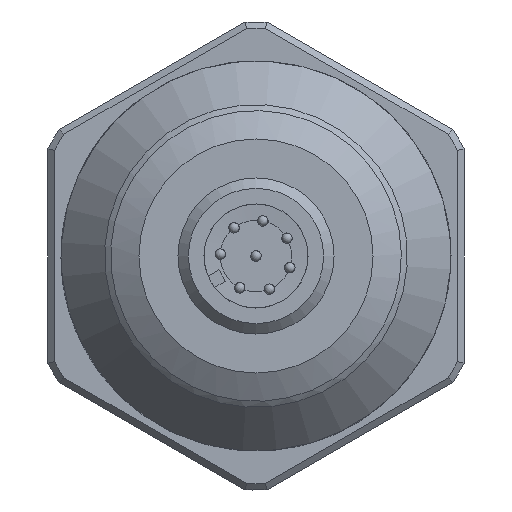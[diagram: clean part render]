
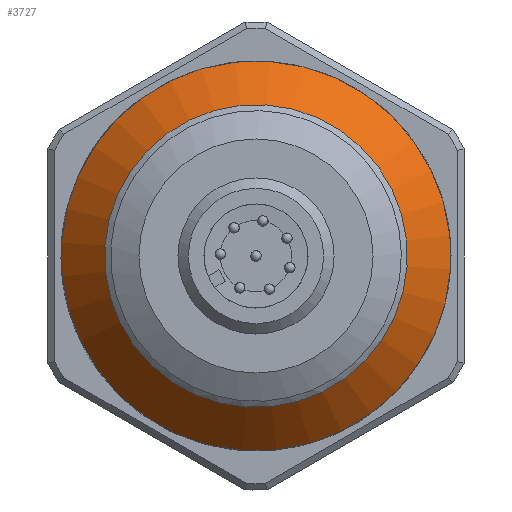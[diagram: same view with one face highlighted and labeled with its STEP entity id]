
A CAD part, front view. The second image highlights one B-rep face of the part: STEP entity #3727.
In plain terms, the highlighted conical face has half-angle 40 degrees and reference radius 15 mm.
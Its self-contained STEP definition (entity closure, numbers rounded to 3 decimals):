
#40=CONICAL_SURFACE('',#3999,15.,0.698);
#1401=ORIENTED_EDGE('',*,*,#2221,.F.);
#1402=ORIENTED_EDGE('',*,*,#2220,.T.);
#2220=EDGE_CURVE('',#2658,#2658,#2828,.T.);
#2221=EDGE_CURVE('',#2659,#2659,#2829,.T.);
#2658=VERTEX_POINT('',#8480);
#2659=VERTEX_POINT('',#8483);
#2828=CIRCLE('',#3998,11.644);
#2829=CIRCLE('',#4000,15.);
#3083=EDGE_LOOP('',(#1401));
#3084=EDGE_LOOP('',(#1402));
#3386=FACE_BOUND('',#3083,.T.);
#3387=FACE_BOUND('',#3084,.T.);
#3727=ADVANCED_FACE('',(#3386,#3387),#40,.T.);
#3998=AXIS2_PLACEMENT_3D('',#8479,#4563,#4564);
#3999=AXIS2_PLACEMENT_3D('',#8481,#4565,#4566);
#4000=AXIS2_PLACEMENT_3D('',#8482,#4567,#4568);
#4563=DIRECTION('',(0.,1.,0.));
#4564=DIRECTION('',(-0.998,0.,0.069));
#4565=DIRECTION('',(0.,1.,0.));
#4566=DIRECTION('',(-0.998,0.,0.069));
#4567=DIRECTION('',(0.,1.,0.));
#4568=DIRECTION('',(-0.998,0.,0.069));
#8479=CARTESIAN_POINT('',(0.,-37.3,0.));
#8480=CARTESIAN_POINT('',(-11.616,-37.3,0.801));
#8481=CARTESIAN_POINT('',(0.,-33.3,0.));
#8482=CARTESIAN_POINT('',(0.,-33.3,0.));
#8483=CARTESIAN_POINT('',(-14.964,-33.3,1.032));
